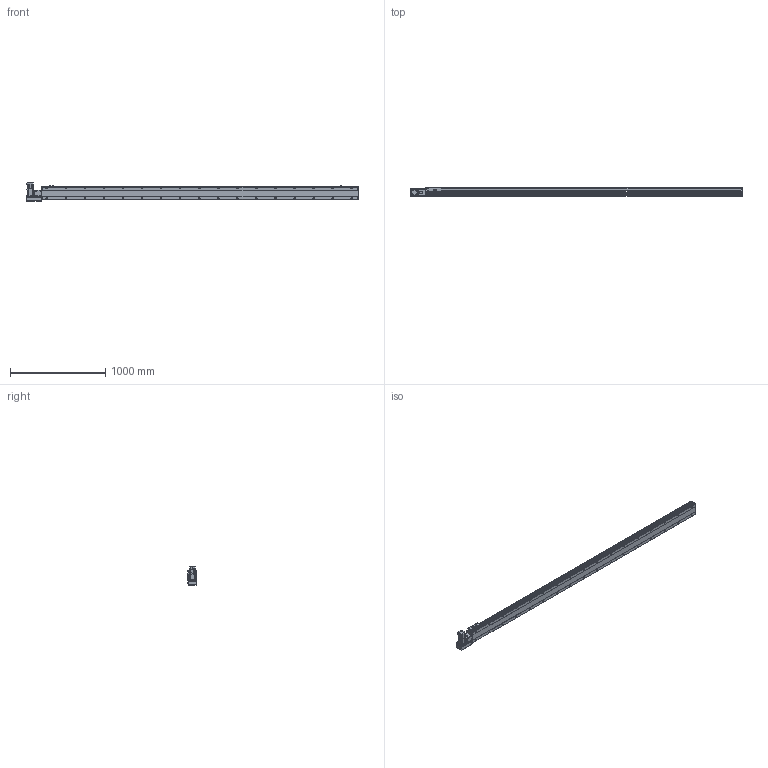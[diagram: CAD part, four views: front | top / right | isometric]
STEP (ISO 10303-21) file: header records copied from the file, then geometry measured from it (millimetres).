
FILE_DESCRIPTION(/* description */ ('STEP AP214'),/* implementation_level */ '2;1');
FILE_NAME(/* name */ 'PBS140S-P40-S3050-L-T40-C1-N(0)',/* time_stamp */ '2022-06-09T02:06:09+02:00',/* author */ ('License CC BY-ND 4.0'),/* organization */ ('CADENAS'),/* preprocessor_version */ 'ST-DEVELOPER v18.102',/* originating_system */ 'PARTsolutions',/* authorisation */ ' ');
FILE_SCHEMA (('AUTOMOTIVE_DESIGN {1 0 10303 214 3 1 1}'));
Length unit declared in the file: millimetre
Products named in the file (7): PBS140S-P40-S3050-L-T40-C1-N(0); PBS140S_sensor; PBS140S_plant; PBS140S_sliser; T40-p1; PBS140ST-L_motors; PBS140S-S3050()_body
Assembly tree (8 placements, depth 2):
  PBS140S-P40-S3050-L-T40-C1-N(0)
    PBS140S_sensor  x3
    PBS140S_plant
    PBS140S_sliser
    T40-p1
    PBS140ST-L_motors
    PBS140S-S3050()_body
Bounding box: 3483 x 93 x 189.7 mm (x, y, z)
Volume: 16375918.2 mm3; surface area: 2746134.8 mm2
Topology: 8 solids, 8 shells, 1243 faces, 3271 edges, 2139 vertices
Faces by surface type: plane 756, cylinder 417, cone 60, sphere 8, torus 2
Full cylindrical faces by diameter (mm): 3.242 x4, 4 x2, 4.134 x4, 4.4 x8, 4.5 x2, 4.8 x4, 4.917 x42, 5.5 x7, 6 x2, 7 x36, 7.5 x8, 8 x12, 8.5 x4, 10.5 x34, 14 x1, 30 x2, 50 x2
Entity records: 35618 total; most frequent: CARTESIAN_POINT 6824, DIRECTION 5978, ORIENTED_EDGE 5602, EDGE_CURVE 2801, AXIS2_PLACEMENT_3D 2129, VERTEX_POINT 1969, LINE 1720, VECTOR 1720
